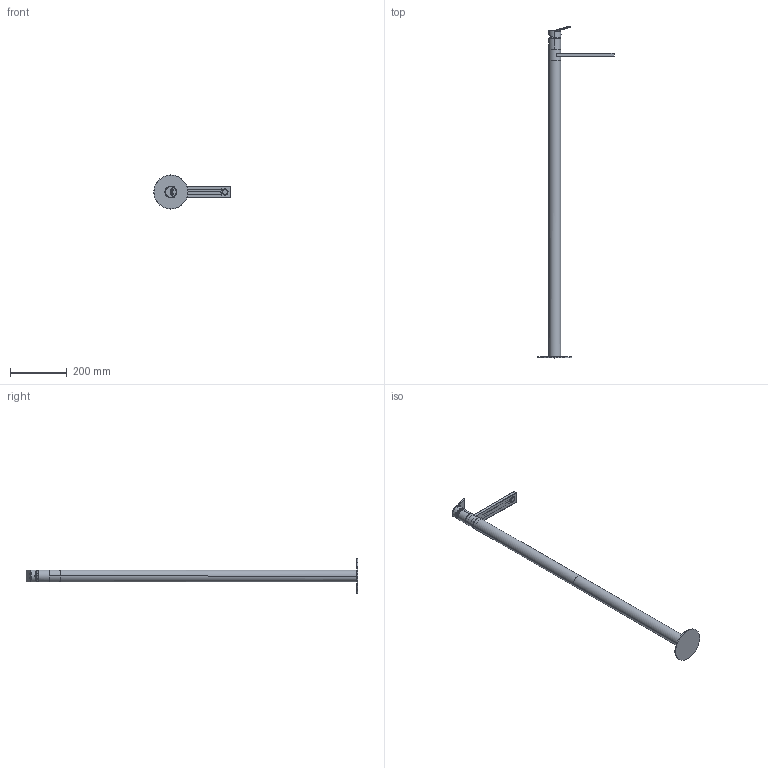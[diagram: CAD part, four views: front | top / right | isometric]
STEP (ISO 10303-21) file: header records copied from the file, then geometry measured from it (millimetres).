
FILE_DESCRIPTION((''),'2;1');
FILE_NAME('74595_SW0001','2025-07-09T16:53:07',('carloff'),(''),'CREO PARAMETRIC BY PTC INC, 2022014','CREO PARAMETRIC BY PTC INC, 2022014','');
FILE_SCHEMA(('CONFIG_CONTROL_DESIGN'));
Length unit declared in the file: millimetre
Products named in the file (1): 74595_SW0001
Bounding box: 269.2 x 1170.67 x 120 mm (x, y, z)
Volume: 516099.8 mm3; surface area: 365563.1 mm2
Topology: 3 solids, 3 shells, 501 faces, 1229 edges, 751 vertices
Faces by surface type: cylinder 187, plane 132, cone 120, bspline 39, torus 16, sphere 7
Entity records: 21877 total; most frequent: CARTESIAN_POINT 10291, ORIENTED_EDGE 2426, DIRECTION 2417, EDGE_CURVE 1213, AXIS2_PLACEMENT_3D 970, VERTEX_POINT 751, EDGE_LOOP 550, CIRCLE 508
